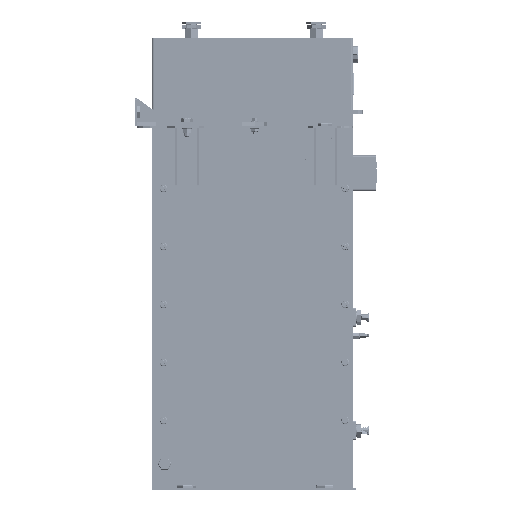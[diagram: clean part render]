
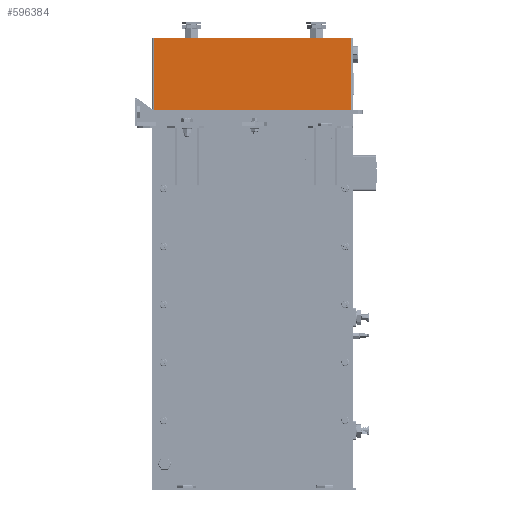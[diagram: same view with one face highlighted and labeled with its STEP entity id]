
A CAD part, top view. The second image highlights one B-rep face of the part: STEP entity #596384.
In plain terms, the highlighted planar face has unit normal (0, 0, 1).
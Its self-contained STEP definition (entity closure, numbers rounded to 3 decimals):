
#5113 = VECTOR ( 'NONE', #418057, 1000. ) ;
#16564 = EDGE_CURVE ( 'NONE', #375499, #498298, #763959, .T. ) ;
#22044 = PLANE ( 'NONE',  #429470 ) ;
#25122 = ORIENTED_EDGE ( 'NONE', *, *, #664263, .T. ) ;
#25173 = CARTESIAN_POINT ( 'NONE',  ( 139.58, 190.984, 222.663 ) ) ;
#35629 = DIRECTION ( 'NONE',  ( 0., 0., -1. ) ) ;
#42351 = DIRECTION ( 'NONE',  ( 0., -1., 0. ) ) ;
#74478 = VERTEX_POINT ( 'NONE', #419688 ) ;
#75742 = CARTESIAN_POINT ( 'NONE',  ( 150.818, 40.984, 222.663 ) ) ;
#110692 = LINE ( 'NONE', #388341, #869674 ) ;
#140031 = LINE ( 'NONE', #840774, #721034 ) ;
#140482 = CARTESIAN_POINT ( 'NONE',  ( 139.58, 40.984, 222.663 ) ) ;
#161867 = DIRECTION ( 'NONE',  ( -1., 0., 0. ) ) ;
#199782 = VERTEX_POINT ( 'NONE', #464707 ) ;
#262220 = ORIENTED_EDGE ( 'NONE', *, *, #835866, .F. ) ;
#299837 = CARTESIAN_POINT ( 'NONE',  ( 139.58, 220.984, 222.663 ) ) ;
#324583 = CARTESIAN_POINT ( 'NONE',  ( -261.955, 40.984, 222.663 ) ) ;
#375499 = VERTEX_POINT ( 'NONE', #324583 ) ;
#388341 = CARTESIAN_POINT ( 'NONE',  ( -261.955, 220.984, 222.663 ) ) ;
#418057 = DIRECTION ( 'NONE',  ( 1., 0., 0. ) ) ;
#419688 = CARTESIAN_POINT ( 'NONE',  ( -261.955, 190.984, 222.663 ) ) ;
#429470 = AXIS2_PLACEMENT_3D ( 'NONE', #299837, #35629, #864029 ) ;
#450602 = EDGE_CURVE ( 'NONE', #74478, #375499, #110692, .T. ) ;
#464707 = CARTESIAN_POINT ( 'NONE',  ( 150.818, 190.984, 222.663 ) ) ;
#498298 = VERTEX_POINT ( 'NONE', #75742 ) ;
#577405 = FACE_OUTER_BOUND ( 'NONE', #734536, .T. ) ;
#583555 = ORIENTED_EDGE ( 'NONE', *, *, #16564, .T. ) ;
#584117 = VECTOR ( 'NONE', #161867, 1000. ) ;
#596384 = ADVANCED_FACE ( 'NONE', ( #577405 ), #22044, .F. ) ;
#664263 = EDGE_CURVE ( 'NONE', #199782, #74478, #726081, .T. ) ;
#721034 = VECTOR ( 'NONE', #767981, 1000. ) ;
#726081 = LINE ( 'NONE', #25173, #584117 ) ;
#734536 = EDGE_LOOP ( 'NONE', ( #25122, #748689, #583555, #262220 ) ) ;
#748689 = ORIENTED_EDGE ( 'NONE', *, *, #450602, .T. ) ;
#763959 = LINE ( 'NONE', #140482, #5113 ) ;
#767981 = DIRECTION ( 'NONE',  ( 0., -1., 0. ) ) ;
#835866 = EDGE_CURVE ( 'NONE', #199782, #498298, #140031, .T. ) ;
#840774 = CARTESIAN_POINT ( 'NONE',  ( 150.818, 560.539, 222.663 ) ) ;
#864029 = DIRECTION ( 'NONE',  ( -1., 0., 0. ) ) ;
#869674 = VECTOR ( 'NONE', #42351, 1000. ) ;
